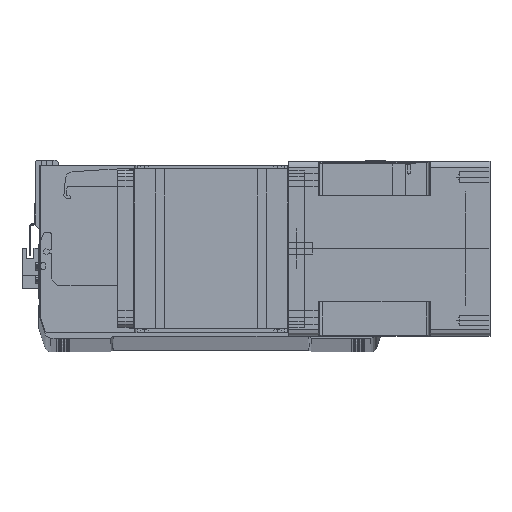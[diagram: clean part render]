
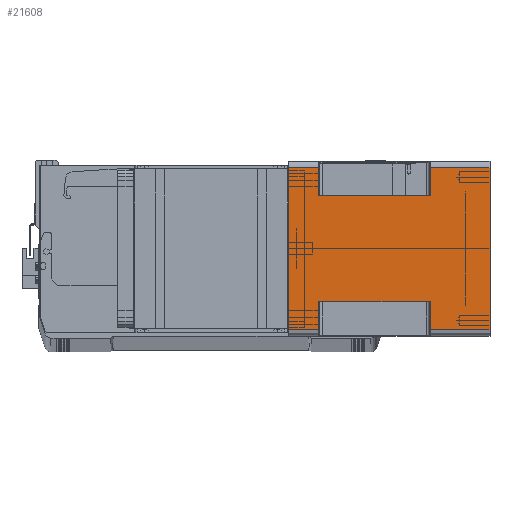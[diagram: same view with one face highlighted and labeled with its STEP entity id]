
A CAD part, top view. The second image highlights one B-rep face of the part: STEP entity #21608.
In plain terms, the highlighted planar face has unit normal (0, 0, 1) as drawn and (1, 0, 0) by its records, which use the part's own axes.
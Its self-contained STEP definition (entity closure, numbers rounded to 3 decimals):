
#988 = EDGE_CURVE ( 'NONE', #35691, #3223, #5594, .T. ) ;
#1365 = CARTESIAN_POINT ( 'NONE',  ( 71., -43., -115.5 ) ) ;
#1553 = EDGE_CURVE ( 'NONE', #4715, #34960, #15010, .T. ) ;
#2073 = CARTESIAN_POINT ( 'NONE',  ( 71., 66., 0. ) ) ;
#2142 = ORIENTED_EDGE ( 'NONE', *, *, #30583, .T. ) ;
#2686 = DIRECTION ( 'NONE',  ( 0., -1., 0. ) ) ;
#3071 = EDGE_CURVE ( 'NONE', #33429, #21272, #4312, .T. ) ;
#3207 = VECTOR ( 'NONE', #5804, 1000. ) ;
#3223 = VERTEX_POINT ( 'NONE', #34983 ) ;
#3665 = ORIENTED_EDGE ( 'NONE', *, *, #1553, .F. ) ;
#4312 = LINE ( 'NONE', #34845, #38974 ) ;
#4392 = EDGE_CURVE ( 'NONE', #15863, #3223, #20647, .T. ) ;
#4631 = LINE ( 'NONE', #20711, #29851 ) ;
#4658 = CARTESIAN_POINT ( 'NONE',  ( 71., 43., -115.5 ) ) ;
#4715 = VERTEX_POINT ( 'NONE', #27070 ) ;
#4719 = FACE_OUTER_BOUND ( 'NONE', #9023, .T. ) ;
#4785 = CARTESIAN_POINT ( 'NONE',  ( 71., -66., -24.5 ) ) ;
#4811 = CARTESIAN_POINT ( 'NONE',  ( 71., 66., -115.5 ) ) ;
#5594 = LINE ( 'NONE', #30476, #40251 ) ;
#5804 = DIRECTION ( 'NONE',  ( 0., 0., 1. ) ) ;
#6206 = VECTOR ( 'NONE', #16596, 1000. ) ;
#6483 = CARTESIAN_POINT ( 'NONE',  ( 71., -66., 0. ) ) ;
#7544 = VECTOR ( 'NONE', #2686, 1000. ) ;
#8028 = CARTESIAN_POINT ( 'NONE',  ( 71., 66., -164. ) ) ;
#8590 = CARTESIAN_POINT ( 'NONE',  ( 71., 66., -164. ) ) ;
#8620 = VECTOR ( 'NONE', #11578, 1000. ) ;
#9023 = EDGE_LOOP ( 'NONE', ( #9318, #14673, #33562, #20638, #30697, #33090, #27584, #17848, #30226, #23073, #3665, #2142 ) ) ;
#9044 = EDGE_CURVE ( 'NONE', #21310, #12895, #38911, .T. ) ;
#9318 = ORIENTED_EDGE ( 'NONE', *, *, #30714, .F. ) ;
#11170 = EDGE_CURVE ( 'NONE', #33429, #23896, #16134, .T. ) ;
#11578 = DIRECTION ( 'NONE',  ( 0., 0., 1. ) ) ;
#11627 = CARTESIAN_POINT ( 'NONE',  ( 71., -66., -164. ) ) ;
#11986 = VECTOR ( 'NONE', #13947, 1000. ) ;
#12082 = CARTESIAN_POINT ( 'NONE',  ( 71., -43., -24.5 ) ) ;
#12379 = VERTEX_POINT ( 'NONE', #2073 ) ;
#12863 = EDGE_CURVE ( 'NONE', #12895, #21272, #15787, .T. ) ;
#12895 = VERTEX_POINT ( 'NONE', #4811 ) ;
#13947 = DIRECTION ( 'NONE',  ( 0., 0., 1. ) ) ;
#14673 = ORIENTED_EDGE ( 'NONE', *, *, #4392, .T. ) ;
#15010 = LINE ( 'NONE', #37277, #22412 ) ;
#15230 = LINE ( 'NONE', #11627, #17323 ) ;
#15538 = EDGE_CURVE ( 'NONE', #23896, #12379, #25982, .T. ) ;
#15787 = LINE ( 'NONE', #4658, #24749 ) ;
#15863 = VERTEX_POINT ( 'NONE', #1365 ) ;
#16037 = PLANE ( 'NONE',  #35300 ) ;
#16134 = LINE ( 'NONE', #4785, #19811 ) ;
#16596 = DIRECTION ( 'NONE',  ( 0., 1., 0. ) ) ;
#16616 = VERTEX_POINT ( 'NONE', #12082 ) ;
#17323 = VECTOR ( 'NONE', #27927, 1000. ) ;
#17584 = EDGE_CURVE ( 'NONE', #35691, #21310, #15230, .T. ) ;
#17848 = ORIENTED_EDGE ( 'NONE', *, *, #11170, .T. ) ;
#19811 = VECTOR ( 'NONE', #28266, 1000. ) ;
#20638 = ORIENTED_EDGE ( 'NONE', *, *, #17584, .T. ) ;
#20647 = LINE ( 'NONE', #26214, #7544 ) ;
#20711 = CARTESIAN_POINT ( 'NONE',  ( 71., -43., -24.5 ) ) ;
#21272 = VERTEX_POINT ( 'NONE', #41186 ) ;
#21310 = VERTEX_POINT ( 'NONE', #8028 ) ;
#21608 = ADVANCED_FACE ( 'NONE', ( #4719 ), #16037, .T. ) ;
#22412 = VECTOR ( 'NONE', #24100, 1000. ) ;
#23073 = ORIENTED_EDGE ( 'NONE', *, *, #38335, .F. ) ;
#23896 = VERTEX_POINT ( 'NONE', #26598 ) ;
#24100 = DIRECTION ( 'NONE',  ( 0., 0., 1. ) ) ;
#24305 = DIRECTION ( 'NONE',  ( 0., 0., 1. ) ) ;
#24749 = VECTOR ( 'NONE', #31378, 1000. ) ;
#24870 = CARTESIAN_POINT ( 'NONE',  ( 71., -66., 0. ) ) ;
#25982 = LINE ( 'NONE', #38698, #8620 ) ;
#26189 = LINE ( 'NONE', #6483, #6206 ) ;
#26214 = CARTESIAN_POINT ( 'NONE',  ( 71., -66., -115.5 ) ) ;
#26598 = CARTESIAN_POINT ( 'NONE',  ( 71., 66., -24.5 ) ) ;
#26675 = DIRECTION ( 'NONE',  ( 0., 1., 0. ) ) ;
#26720 = CARTESIAN_POINT ( 'NONE',  ( 71., 43., -24.5 ) ) ;
#27070 = CARTESIAN_POINT ( 'NONE',  ( 71., -66., -24.5 ) ) ;
#27584 = ORIENTED_EDGE ( 'NONE', *, *, #3071, .F. ) ;
#27927 = DIRECTION ( 'NONE',  ( 0., 1., 0. ) ) ;
#28266 = DIRECTION ( 'NONE',  ( 0., 1., 0. ) ) ;
#29851 = VECTOR ( 'NONE', #30990, 1000. ) ;
#30226 = ORIENTED_EDGE ( 'NONE', *, *, #15538, .T. ) ;
#30476 = CARTESIAN_POINT ( 'NONE',  ( 71., -66., -164. ) ) ;
#30583 = EDGE_CURVE ( 'NONE', #4715, #16616, #4631, .T. ) ;
#30697 = ORIENTED_EDGE ( 'NONE', *, *, #9044, .T. ) ;
#30714 = EDGE_CURVE ( 'NONE', #15863, #16616, #36621, .T. ) ;
#30990 = DIRECTION ( 'NONE',  ( 0., 1., 0. ) ) ;
#31378 = DIRECTION ( 'NONE',  ( 0., -1., 0. ) ) ;
#31527 = CARTESIAN_POINT ( 'NONE',  ( 71., -66., -164. ) ) ;
#32413 = DIRECTION ( 'NONE',  ( 1., 0., 0. ) ) ;
#33090 = ORIENTED_EDGE ( 'NONE', *, *, #12863, .T. ) ;
#33429 = VERTEX_POINT ( 'NONE', #26720 ) ;
#33562 = ORIENTED_EDGE ( 'NONE', *, *, #988, .F. ) ;
#34845 = CARTESIAN_POINT ( 'NONE',  ( 71., 43., -164. ) ) ;
#34960 = VERTEX_POINT ( 'NONE', #24870 ) ;
#34983 = CARTESIAN_POINT ( 'NONE',  ( 71., -66., -115.5 ) ) ;
#35131 = DIRECTION ( 'NONE',  ( 0., 0., -1. ) ) ;
#35300 = AXIS2_PLACEMENT_3D ( 'NONE', #39535, #32413, #26675 ) ;
#35691 = VERTEX_POINT ( 'NONE', #31527 ) ;
#36621 = LINE ( 'NONE', #41267, #11986 ) ;
#37277 = CARTESIAN_POINT ( 'NONE',  ( 71., -66., -164. ) ) ;
#38335 = EDGE_CURVE ( 'NONE', #34960, #12379, #26189, .T. ) ;
#38698 = CARTESIAN_POINT ( 'NONE',  ( 71., 66., -164. ) ) ;
#38911 = LINE ( 'NONE', #8590, #3207 ) ;
#38974 = VECTOR ( 'NONE', #35131, 1000. ) ;
#39535 = CARTESIAN_POINT ( 'NONE',  ( 71., -66., -164. ) ) ;
#40251 = VECTOR ( 'NONE', #24305, 1000. ) ;
#41186 = CARTESIAN_POINT ( 'NONE',  ( 71., 43., -115.5 ) ) ;
#41267 = CARTESIAN_POINT ( 'NONE',  ( 71., -43., -164. ) ) ;
